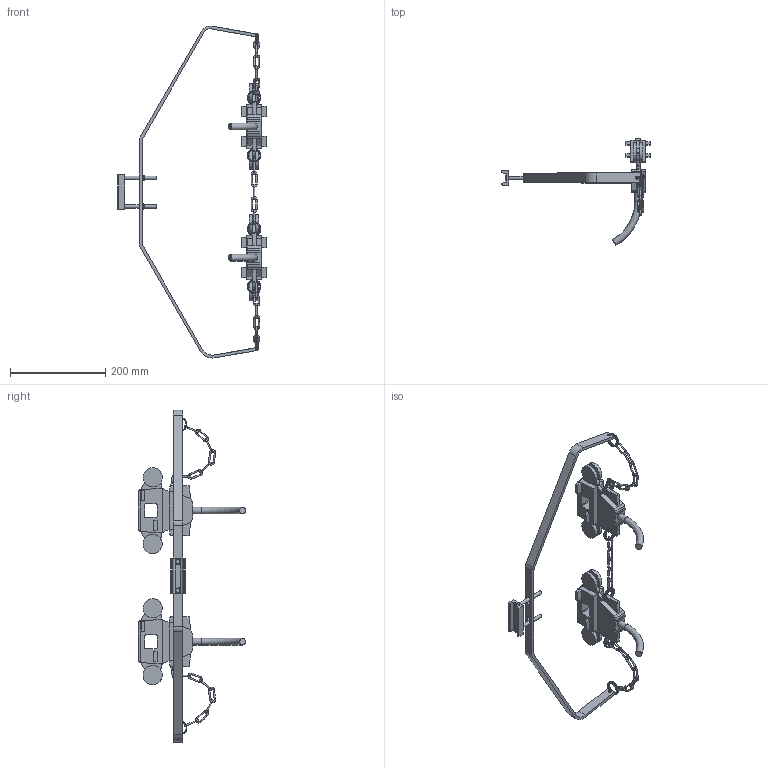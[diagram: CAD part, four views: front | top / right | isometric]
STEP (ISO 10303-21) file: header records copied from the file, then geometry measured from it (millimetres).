
FILE_DESCRIPTION(/* description */ ('Unknown'),/* implementation_level */ '2;1');
FILE_NAME(/* name */ 'MI403x+ME1610_chariot double+entraîneur_SPL',/* time_stamp */ '2018-08-16T10:23:57+02:00',/* author */ ('Unknown'),/* organization */ ('Unknown'),/* preprocessor_version */ 'ST-DEVELOPER v16.7',/* originating_system */ 'DEX',/* authorisation */ $);
FILE_SCHEMA (('AUTOMOTIVE_DESIGN {1 0 10303 214 3 1 1}'));
Length unit declared in the file: millimetre
Products named in the file (17): Assemblage chariot simplifié double +entraîneur; Assemblage chariot double simplifié; corps de chariot simplifié; chaine4_1_mir2; MAILLON-CHAINETTE_1; ANNEAU-ELASTIQUE_1_mir3; chaine4_1; ANNEAU-ELASTIQUE_1; Chainette 5 maillons; ANNEAU-ELASTIQUE_1_mir; ANNEAU-ELASTIQUE_1_mir2; Entraineur double ME1610; MO1611_1; MN0217-TROMP_BRIDE PROFIL U_1; vism6x70_1; Ecrou M6 Nylstop
Assembly tree (40 placements, depth 4):
  Assemblage chariot simplifié double +entraîneur
    Assemblage chariot double simplifié
      corps de chariot simplifié  x2
      chaine4_1_mir2
        MAILLON-CHAINETTE_1  x8
        ANNEAU-ELASTIQUE_1_mir3
      chaine4_1
        MAILLON-CHAINETTE_1  x8
        ANNEAU-ELASTIQUE_1
      Chainette 5 maillons
        MAILLON-CHAINETTE_1  x5
      ANNEAU-ELASTIQUE_1_mir
      ANNEAU-ELASTIQUE_1_mir2
      ANNEAU-ELASTIQUE_1_mir3
      ANNEAU-ELASTIQUE_1
    Entraineur double ME1610
      MO1611_1
      MN0217-TROMP_BRIDE PROFIL U_1
      vism6x70_1  x2
      Ecrou M6 Nylstop  x2
Bounding box: 311.49 x 224.43 x 696.29 mm (x, y, z)
Volume: 734476.9 mm3; surface area: 203065.4 mm2
Topology: 35 solids, 35 shells, 446 faces, 1162 edges, 758 vertices
Faces by surface type: plane 232, cylinder 144, bspline 58, cone 8, torus 4
Full cylindrical faces by diameter (mm): 3 x42, 6 x4, 6.5 x2, 7 x4, 8 x4, 9 x2, 9.6 x2, 14 x2, 40 x8
Entity records: 10042 total; most frequent: CARTESIAN_POINT 3553, DIRECTION 1124, ORIENTED_EDGE 996, EDGE_CURVE 498, AXIS2_PLACEMENT_3D 408, VERTEX_POINT 344, LINE 308, VECTOR 308
